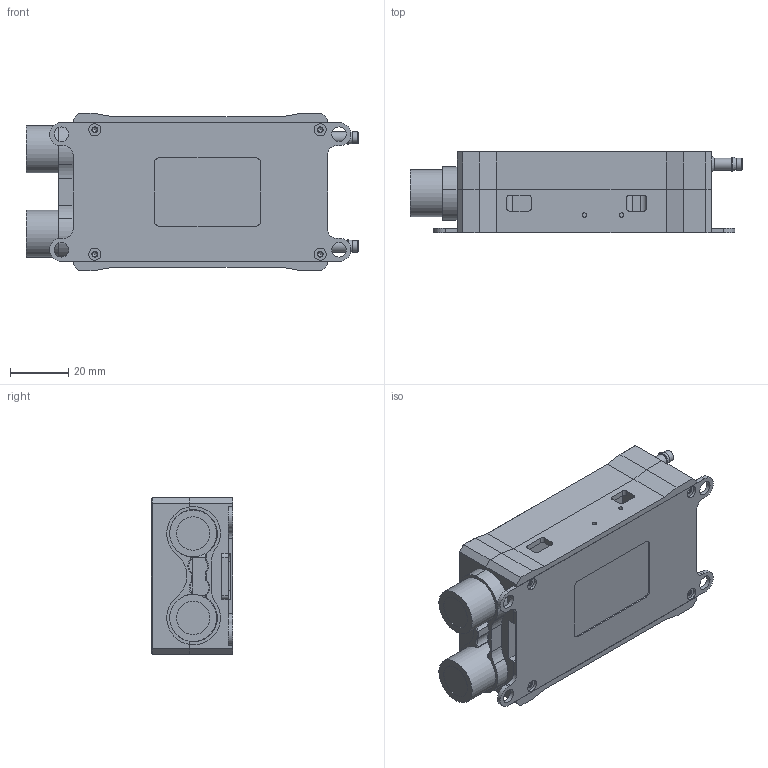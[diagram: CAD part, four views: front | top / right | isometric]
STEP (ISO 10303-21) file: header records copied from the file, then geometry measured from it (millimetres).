
FILE_DESCRIPTION(/* description */ (''),/* implementation_level */ '2;1');
FILE_NAME(/* name */ 'Opto 255 Navy V2 ANL.step',/* time_stamp */ '2024-10-07T15:55:42+02:00',/* author */ (''),/* organization */ (''),/* preprocessor_version */ 'ST-DEVELOPER v20',/* originating_system */ 'Autodesk Translation Framework v13.20.0.188',/* authorisation */ '');
FILE_SCHEMA (('AUTOMOTIVE_DESIGN { 1 0 10303 214 3 1 1 }'));
Length unit declared in the file: millimetre
Products named in the file (9): Opto 255 Navy V2 ANL; Oberteil; Unterteil; Deckel; Kabel & Elkos; Elko3; Elko4; Wakü-Nippel; Wakü-Deckel
Assembly tree (9 placements, depth 3):
  Opto 255 Navy V2 ANL
    Oberteil
    Unterteil
    Deckel
    Kabel & Elkos
      Elko3
      Elko4
    Wakü-Nippel  x2
    Wakü-Deckel
Bounding box: 114.4 x 28.1 x 54.1 mm (x, y, z)
Volume: 132212.3 mm3; surface area: 50871.7 mm2
Topology: 12 solids, 12 shells, 413 faces, 1074 edges, 691 vertices
Faces by surface type: plane 201, cylinder 165, cone 35, torus 8, bspline 4
Full cylindrical faces by diameter (mm): 0.8 x4, 1.5 x2, 1.623 x18, 2 x8, 3 x2, 3.99 x2, 4 x4, 4.2 x4, 4.234 x2, 4.901 x4, 5 x4, 6 x4, 11.5 x2, 16.2 x2
Entity records: 13097 total; most frequent: CARTESIAN_POINT 3121, DIRECTION 2049, ORIENTED_EDGE 1984, EDGE_CURVE 992, AXIS2_PLACEMENT_3D 701, VERTEX_POINT 651, LINE 647, VECTOR 647
